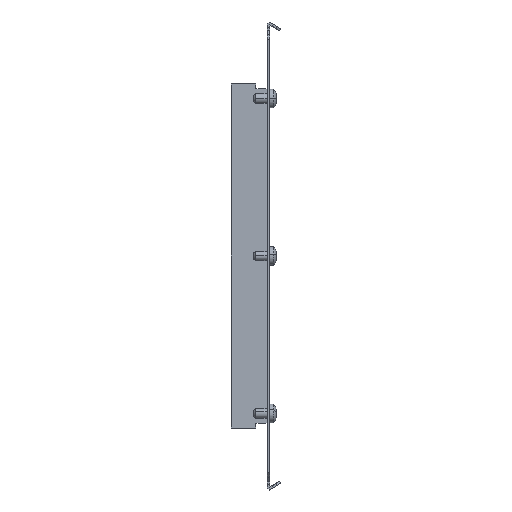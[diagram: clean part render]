
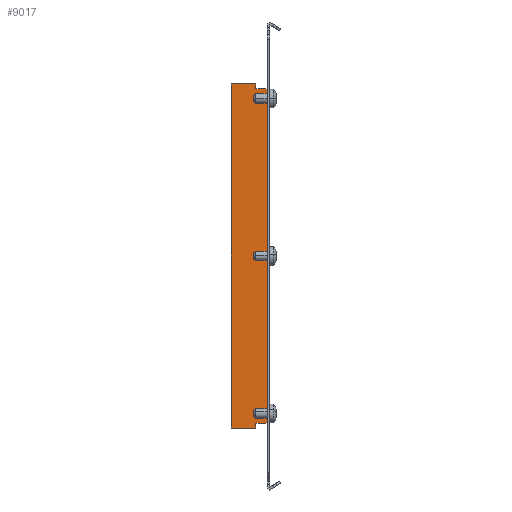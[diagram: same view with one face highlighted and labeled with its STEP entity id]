
A CAD part, left-side view. The second image highlights one B-rep face of the part: STEP entity #9017.
In plain terms, the highlighted planar face has unit normal (-1, 0, 0).
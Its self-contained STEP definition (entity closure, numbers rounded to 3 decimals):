
#8 = CARTESIAN_POINT ( 'NONE',  ( 134.299, -6.457, -110.013 ) ) ;
#55 = DIRECTION ( 'NONE',  ( -1., 0., 0. ) ) ;
#145 = ORIENTED_EDGE ( 'NONE', *, *, #1494, .F. ) ;
#193 = CARTESIAN_POINT ( 'NONE',  ( 134.299, -7.957, -0.763 ) ) ;
#344 = CARTESIAN_POINT ( 'NONE',  ( 134.299, -0.707, -107.013 ) ) ;
#404 = VECTOR ( 'NONE', #5046, 1000. ) ;
#477 = DIRECTION ( 'NONE',  ( 0., 0., 1. ) ) ;
#520 = CARTESIAN_POINT ( 'NONE',  ( 134.299, 15.043, -107.513 ) ) ;
#574 = LINE ( 'NONE', #520, #8385 ) ;
#582 = EDGE_CURVE ( 'NONE', #4264, #5268, #1269, .T. ) ;
#683 = DIRECTION ( 'NONE',  ( 0., -1., 0. ) ) ;
#720 = CARTESIAN_POINT ( 'NONE',  ( 134.299, -7.957, 105.487 ) ) ;
#739 = CARTESIAN_POINT ( 'NONE',  ( 134.299, 15.043, 105.487 ) ) ;
#786 = EDGE_CURVE ( 'NONE', #4264, #5284, #4377, .T. ) ;
#1086 = VERTEX_POINT ( 'NONE', #6336 ) ;
#1157 = CARTESIAN_POINT ( 'NONE',  ( 134.299, -0.707, -110.013 ) ) ;
#1192 = LINE ( 'NONE', #8121, #4016 ) ;
#1221 = CARTESIAN_POINT ( 'NONE',  ( 134.299, -6.957, -107.013 ) ) ;
#1254 = ORIENTED_EDGE ( 'NONE', *, *, #4088, .F. ) ;
#1269 = LINE ( 'NONE', #1221, #5401 ) ;
#1494 = EDGE_CURVE ( 'NONE', #1086, #7289, #2892, .T. ) ;
#1568 = CARTESIAN_POINT ( 'NONE',  ( 134.299, -0.707, 108.487 ) ) ;
#1685 = CARTESIAN_POINT ( 'NONE',  ( 134.299, 15.043, 105.987 ) ) ;
#1825 = LINE ( 'NONE', #4628, #2690 ) ;
#1877 = VERTEX_POINT ( 'NONE', #7358 ) ;
#1887 = VERTEX_POINT ( 'NONE', #1157 ) ;
#1999 = VECTOR ( 'NONE', #5520, 1000. ) ;
#2248 = LINE ( 'NONE', #720, #404 ) ;
#2265 = ORIENTED_EDGE ( 'NONE', *, *, #3076, .F. ) ;
#2270 = CARTESIAN_POINT ( 'NONE',  ( 134.299, -6.457, -0.763 ) ) ;
#2311 = CARTESIAN_POINT ( 'NONE',  ( 134.299, 15.043, -107.013 ) ) ;
#2473 = DIRECTION ( 'NONE',  ( 0., 0., -1. ) ) ;
#2594 = LINE ( 'NONE', #6721, #5190 ) ;
#2690 = VECTOR ( 'NONE', #477, 1000. ) ;
#2787 = AXIS2_PLACEMENT_3D ( 'NONE', #2270, #55, #5660 ) ;
#2892 = LINE ( 'NONE', #8279, #8067 ) ;
#2955 = PLANE ( 'NONE',  #2787 ) ;
#3044 = DIRECTION ( 'NONE',  ( 0., 1., 0. ) ) ;
#3076 = EDGE_CURVE ( 'NONE', #4284, #5268, #4240, .T. ) ;
#3097 = EDGE_CURVE ( 'NONE', #5198, #4669, #8383, .T. ) ;
#3366 = DIRECTION ( 'NONE',  ( 0., 1., 0. ) ) ;
#3408 = LINE ( 'NONE', #739, #1999 ) ;
#3598 = EDGE_CURVE ( 'NONE', #5254, #5198, #8516, .T. ) ;
#3646 = DIRECTION ( 'NONE',  ( 0., 0., -1. ) ) ;
#3650 = FACE_OUTER_BOUND ( 'NONE', #4596, .T. ) ;
#3652 = EDGE_CURVE ( 'NONE', #4694, #1877, #574, .T. ) ;
#3662 = CARTESIAN_POINT ( 'NONE',  ( 134.299, 15.043, 108.487 ) ) ;
#3672 = EDGE_CURVE ( 'NONE', #6568, #1887, #3985, .T. ) ;
#3985 = LINE ( 'NONE', #4029, #4010 ) ;
#4010 = VECTOR ( 'NONE', #5350, 1000. ) ;
#4016 = VECTOR ( 'NONE', #5951, 1000. ) ;
#4029 = CARTESIAN_POINT ( 'NONE',  ( 134.299, -0.707, -0.763 ) ) ;
#4048 = EDGE_CURVE ( 'NONE', #6568, #5284, #1192, .T. ) ;
#4080 = EDGE_CURVE ( 'NONE', #1086, #4669, #1825, .T. ) ;
#4088 = EDGE_CURVE ( 'NONE', #7664, #4284, #2594, .T. ) ;
#4131 = ORIENTED_EDGE ( 'NONE', *, *, #5988, .F. ) ;
#4240 = LINE ( 'NONE', #193, #6860 ) ;
#4264 = VERTEX_POINT ( 'NONE', #4393 ) ;
#4284 = VERTEX_POINT ( 'NONE', #7167 ) ;
#4377 = LINE ( 'NONE', #2311, #7873 ) ;
#4393 = CARTESIAN_POINT ( 'NONE',  ( 134.299, -6.957, -107.013 ) ) ;
#4451 = ORIENTED_EDGE ( 'NONE', *, *, #786, .F. ) ;
#4510 = DIRECTION ( 'NONE',  ( 0., 0., 1. ) ) ;
#4596 = EDGE_LOOP ( 'NONE', ( #4451, #5447, #2265, #1254, #4131, #145, #8484, #7914, #7026, #5984, #8783, #4959, #8327, #4913 ) ) ;
#4628 = CARTESIAN_POINT ( 'NONE',  ( 134.299, -0.707, 105.987 ) ) ;
#4669 = VERTEX_POINT ( 'NONE', #1568 ) ;
#4694 = VERTEX_POINT ( 'NONE', #6875 ) ;
#4886 = LINE ( 'NONE', #8, #5506 ) ;
#4913 = ORIENTED_EDGE ( 'NONE', *, *, #4048, .T. ) ;
#4959 = ORIENTED_EDGE ( 'NONE', *, *, #6886, .F. ) ;
#5046 = DIRECTION ( 'NONE',  ( 0., -1., 0. ) ) ;
#5054 = CARTESIAN_POINT ( 'NONE',  ( 134.299, 15.043, -0.763 ) ) ;
#5086 = CARTESIAN_POINT ( 'NONE',  ( 134.299, -7.957, -107.013 ) ) ;
#5104 = CARTESIAN_POINT ( 'NONE',  ( 134.299, -6.957, 105.487 ) ) ;
#5190 = VECTOR ( 'NONE', #5389, 1000. ) ;
#5198 = VERTEX_POINT ( 'NONE', #3662 ) ;
#5254 = VERTEX_POINT ( 'NONE', #1685 ) ;
#5268 = VERTEX_POINT ( 'NONE', #5086 ) ;
#5284 = VERTEX_POINT ( 'NONE', #344 ) ;
#5350 = DIRECTION ( 'NONE',  ( 0., 0., -1. ) ) ;
#5389 = DIRECTION ( 'NONE',  ( 0., -1., 0. ) ) ;
#5401 = VECTOR ( 'NONE', #8763, 1000. ) ;
#5447 = ORIENTED_EDGE ( 'NONE', *, *, #582, .T. ) ;
#5506 = VECTOR ( 'NONE', #3366, 1000. ) ;
#5520 = DIRECTION ( 'NONE',  ( 0., 0., 1. ) ) ;
#5660 = DIRECTION ( 'NONE',  ( 0., 0., 1. ) ) ;
#5951 = DIRECTION ( 'NONE',  ( 0., 0., 1. ) ) ;
#5964 = CARTESIAN_POINT ( 'NONE',  ( 134.299, -0.707, -107.513 ) ) ;
#5984 = ORIENTED_EDGE ( 'NONE', *, *, #6882, .F. ) ;
#5988 = EDGE_CURVE ( 'NONE', #7289, #7664, #2248, .T. ) ;
#6275 = DIRECTION ( 'NONE',  ( 0., 0., -1. ) ) ;
#6324 = VECTOR ( 'NONE', #683, 1000. ) ;
#6336 = CARTESIAN_POINT ( 'NONE',  ( 134.299, -0.707, 105.987 ) ) ;
#6558 = CARTESIAN_POINT ( 'NONE',  ( 134.299, -0.707, 105.487 ) ) ;
#6568 = VERTEX_POINT ( 'NONE', #5964 ) ;
#6721 = CARTESIAN_POINT ( 'NONE',  ( 134.299, -6.457, 105.487 ) ) ;
#6860 = VECTOR ( 'NONE', #3646, 1000. ) ;
#6875 = CARTESIAN_POINT ( 'NONE',  ( 134.299, 15.043, -107.513 ) ) ;
#6882 = EDGE_CURVE ( 'NONE', #4694, #5254, #3408, .T. ) ;
#6886 = EDGE_CURVE ( 'NONE', #1887, #1877, #4886, .T. ) ;
#6921 = CARTESIAN_POINT ( 'NONE',  ( 134.299, -6.457, 108.487 ) ) ;
#7026 = ORIENTED_EDGE ( 'NONE', *, *, #3598, .F. ) ;
#7167 = CARTESIAN_POINT ( 'NONE',  ( 134.299, -7.957, 105.487 ) ) ;
#7289 = VERTEX_POINT ( 'NONE', #6558 ) ;
#7358 = CARTESIAN_POINT ( 'NONE',  ( 134.299, 15.043, -110.013 ) ) ;
#7664 = VERTEX_POINT ( 'NONE', #5104 ) ;
#7873 = VECTOR ( 'NONE', #3044, 1000. ) ;
#7914 = ORIENTED_EDGE ( 'NONE', *, *, #3097, .F. ) ;
#8067 = VECTOR ( 'NONE', #6275, 1000. ) ;
#8121 = CARTESIAN_POINT ( 'NONE',  ( 134.299, -0.707, -107.513 ) ) ;
#8279 = CARTESIAN_POINT ( 'NONE',  ( 134.299, -0.707, 105.987 ) ) ;
#8327 = ORIENTED_EDGE ( 'NONE', *, *, #3672, .F. ) ;
#8383 = LINE ( 'NONE', #6921, #6324 ) ;
#8385 = VECTOR ( 'NONE', #2473, 1000. ) ;
#8484 = ORIENTED_EDGE ( 'NONE', *, *, #4080, .T. ) ;
#8516 = LINE ( 'NONE', #5054, #8535 ) ;
#8535 = VECTOR ( 'NONE', #4510, 1000. ) ;
#8763 = DIRECTION ( 'NONE',  ( 0., -1., 0. ) ) ;
#8783 = ORIENTED_EDGE ( 'NONE', *, *, #3652, .T. ) ;
#9017 = ADVANCED_FACE ( 'NONE', ( #3650 ), #2955, .T. ) ;
